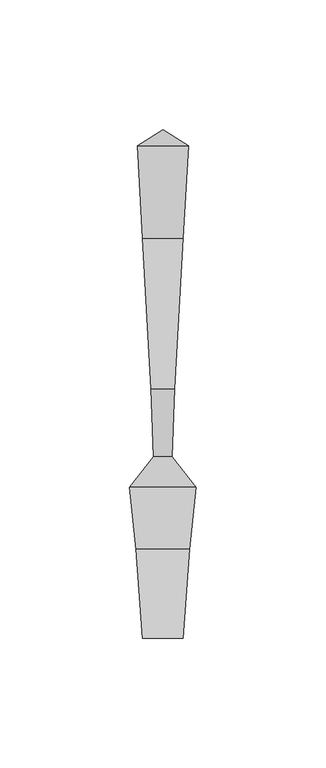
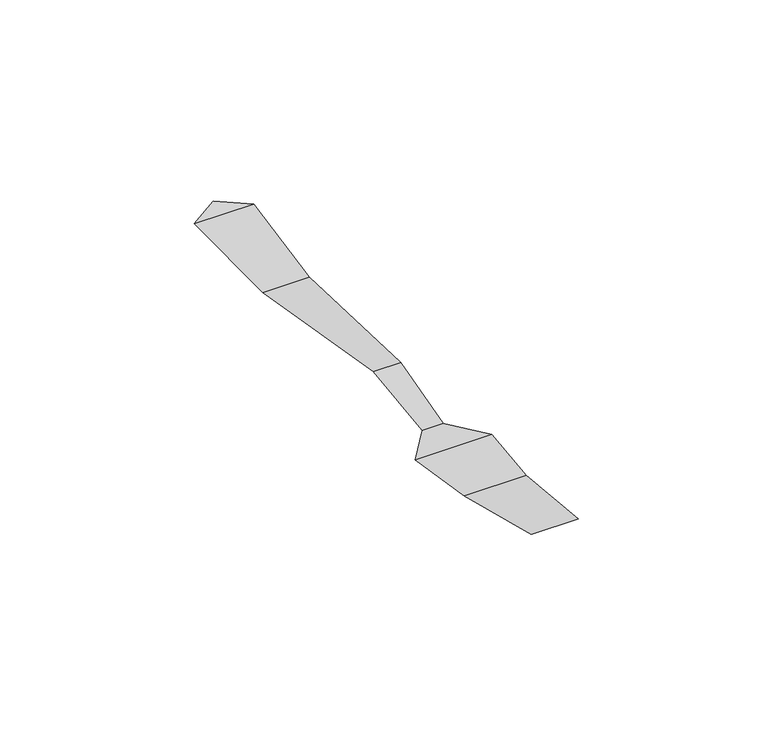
"""IFC4 building model written with IfcOpenShell, lengths in millimetres: geographic element geometry, Enscape AssetDefinition - Cutlery 001 Fork : Enscape AssetDefinition - Cutlery 001 Fork."""

from ifc_helpers import new_model, si_unit, origin, place, context, project, spatial, triangles, source, transform, mapped, element, save


def geographic_element_9b245b1b(model_context):
    return source(origin(), model_context, "Body", "Tessellation", [
        triangles([(-7.7679993, -97.910003, 10.7079992), (0.0, 97.527995, 5.9500002), (-4.5269999, -1.9949998, 8.2339996), (3.5179999, -28.1130006, 3.1169998), (4.5269999, -1.9949998, 8.2339996), (-7.7259995, 55.8330019, 2.0039998), (7.7259995, 55.8330019, 2.0039998), (-9.815999, 91.4029964, 5.1749998), (9.815999, 91.4029964, 5.1749998), (-3.5179999, -28.1130006, 3.1169998), (-12.7139996, -39.9530028, 3.2460001), (12.7139996, -39.9530028, 3.2460001), (10.2409992, -63.7999983, 4.2200001), (7.7679993, -97.910003, 10.7079992), (-10.2409992, -63.7999983, 4.2200001)], [[1, 14, 15], [13, 15, 14], [11, 15, 12], [13, 12, 15], [11, 12, 10], [4, 10, 12], [8, 9, 2], [9, 8, 7], [6, 7, 8], [7, 6, 5], [3, 5, 6], [10, 4, 3], [5, 3, 4]], closed=False),
    ])


if __name__ == "__main__":
    model = new_model("IFC4")
    model_context = context("Model", 3, world=origin())
    ifc_project = project(units=[si_unit("LENGTHUNIT", "METRE", prefix="MILLI")], contexts=[model_context])
    site = spatial("IfcSite", under=ifc_project)
    building = spatial("IfcBuilding", under=site)
    placement = place(None, origin())
    geographic_element_shape = geographic_element_9b245b1b(model_context)
    element("IfcGeographicElement", 1, ObjectType="Enscape AssetDefinition - Cutlery 001 Fork : Enscape AssetDefinition - Cutlery 001 Fork", at=placement, inside=building, context=model_context, shape_type="MappedRepresentation", body=[
        mapped(geographic_element_shape, transform((0.0, 0.0, 0.0), x_axis=(1.0, 0.0, 0.0), y_axis=(0.0, 1.0, 0.0), z_axis=(0.0, 0.0, 1.0))),
    ])
    save(model, "model.ifc")
